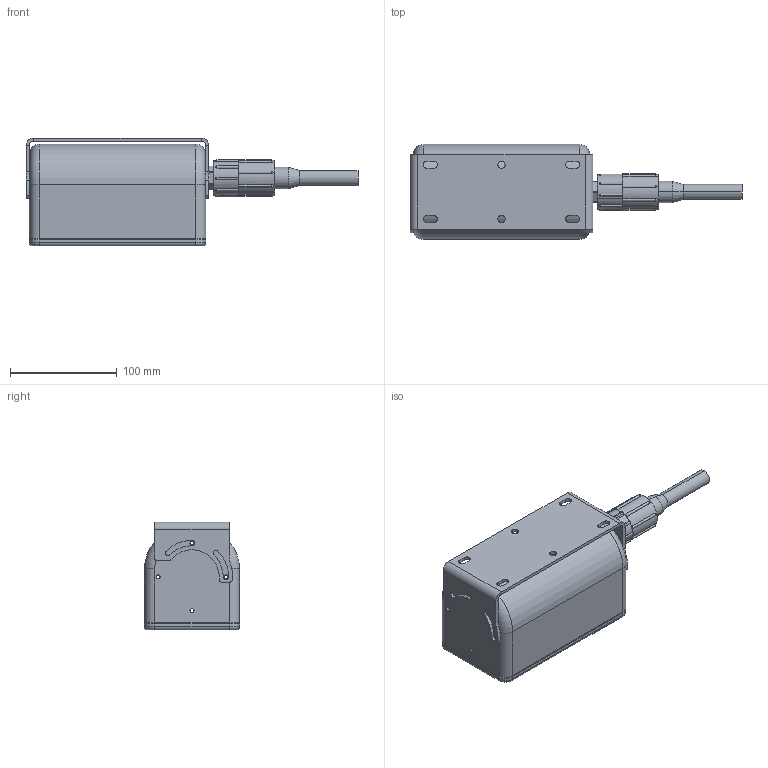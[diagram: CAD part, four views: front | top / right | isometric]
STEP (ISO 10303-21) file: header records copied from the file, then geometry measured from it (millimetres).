
FILE_DESCRIPTION (( 'STEP AP214' ), '1' );
FILE_NAME ('C3-DBH13-SideMount.STEP', '2026-05-04T17:19:06', ( '' ), ( '' ), 'SwSTEP 2.0', 'SolidWorks 2020', '' );
FILE_SCHEMA (( 'AUTOMOTIVE_DESIGN' ));
Length unit declared in the file: metre
Products named in the file (1): C3-DBH13-SideMount
Bounding box: 310.64 x 88.9 x 100.84 mm (x, y, z)
Surface area: 119419.7 mm2 (no closed solid volume)
Topology: 0 solids, 23 shells, 763 faces, 2383 edges, 1558 vertices
Faces by surface type: plane 305, cylinder 200, cone 180, bspline 66, torus 12
Entity records: 37778 total; most frequent: CARTESIAN_POINT 9372, ORIENTED_EDGE 4085, DIRECTION 3960, EDGE_CURVE 2343, VERTEX_POINT 1558, AXIS2_PLACEMENT_3D 1454, LINE 1052, VECTOR 1052
